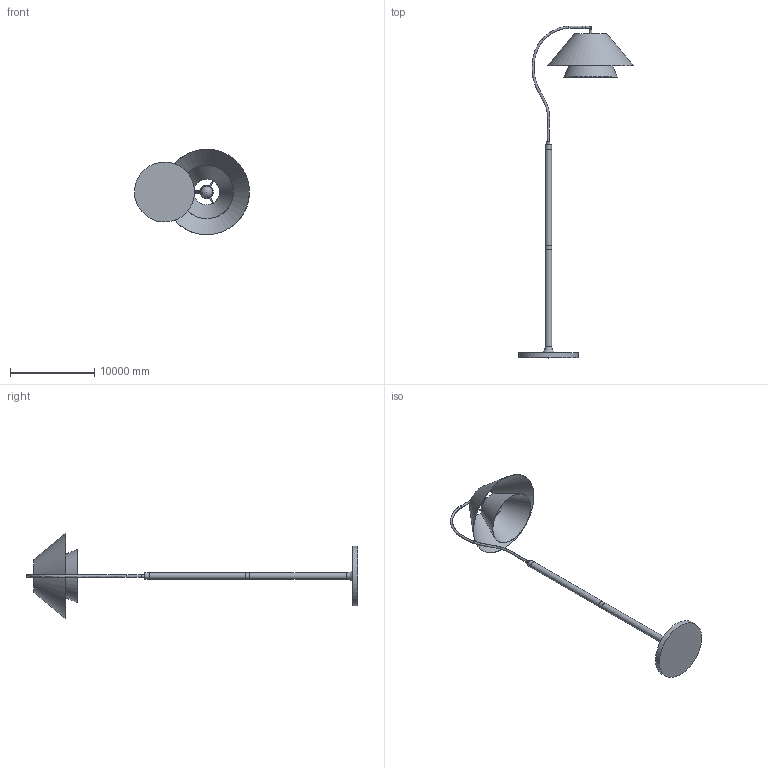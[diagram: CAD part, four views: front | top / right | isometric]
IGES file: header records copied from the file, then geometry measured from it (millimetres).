
Global section: file name: Hands Garner Floor Lamp; native system: AutoCAD 2022 - 简体中文 (Simplified Chinese),62HAuto; preprocessor: desk Translation Framework DWG producer (atf_dwg_producer); organization: unknown; date: 20250408.115232; units: inch
Bounding box: 13640.53 x 39373.35 x 10156.02 mm (x, y, z)
Volume: 44236492765.8 mm3; surface area: 553487480.6 mm2
Topology: 31 solids, 31 shells, 126 faces, 224 edges, 159 vertices
Faces by surface type: bspline 126
